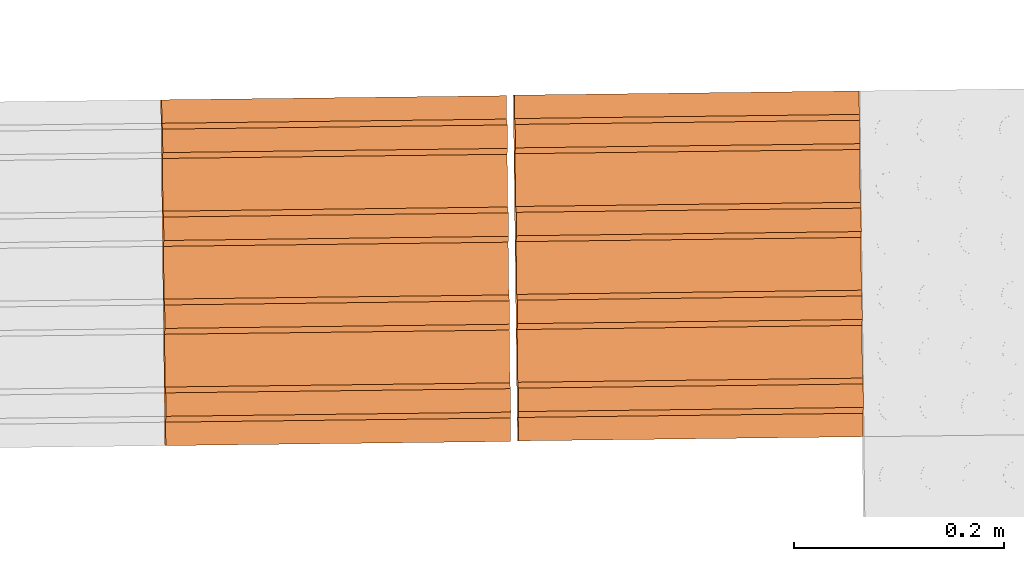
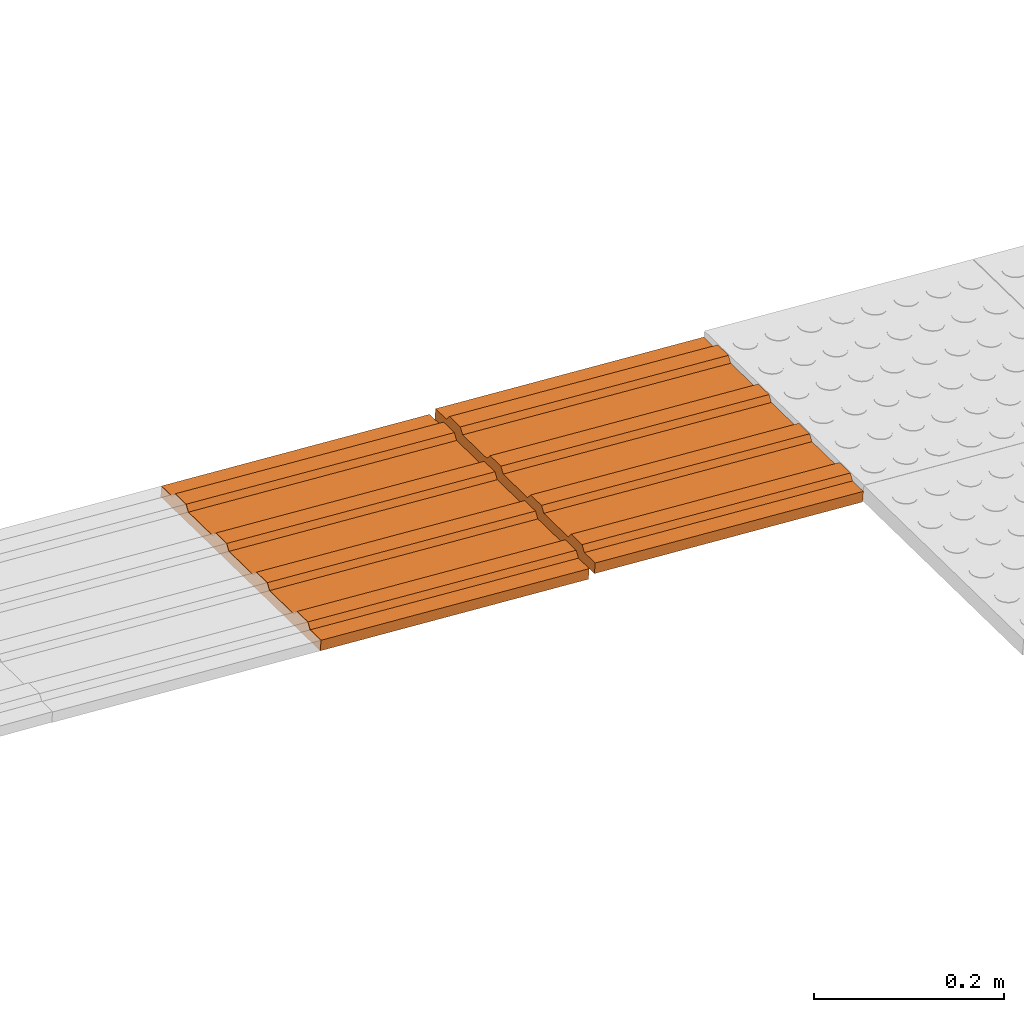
# One storey, part 184 of 237: 2 proxies.
"""IFC2X3 building model written with IfcOpenShell, lengths in millimetres."""

from ifc_helpers import new_model, entity, si_unit, converted_unit, derived_unit, money_unit, direction, frame, origin_with_axes, place, context, subcontext, project, spatial, open_shell, surface_model, source, transform, mapped, type_object, element, save


model = new_model("IFC2X3")

# Units and contexts
model_context = context("Model", 3, precision=0.01, world=origin_with_axes(), true_north=direction((0.0, 1.0)))
body_context = subcontext(model_context, "Body", "Model", "MODEL_VIEW")
ifc_project = project(units=[si_unit("LENGTHUNIT", "METRE", prefix="MILLI"), si_unit("AREAUNIT", "SQUARE_METRE"), si_unit("VOLUMEUNIT", "CUBIC_METRE"), converted_unit("PLANEANGLEUNIT", "DEGREE", entity("IfcPlaneAngleMeasure", 0.0174532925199), si_unit("PLANEANGLEUNIT", "RADIAN"), dimensions=[0, 0, 0, 0, 0, 0, 0]), money_unit("USD"), converted_unit("TIMEUNIT", "Year", entity("IfcTimeMeasure", 31556926.0), si_unit("TIMEUNIT", "SECOND"), dimensions=[0, 0, 1, 0, 0, 0, 0]), si_unit("MASSUNIT", "GRAM", prefix="KILO"), si_unit("THERMODYNAMICTEMPERATUREUNIT", "DEGREE_CELSIUS"), si_unit("LUMINOUSINTENSITYUNIT", "LUMEN"), si_unit("ENERGYUNIT", "JOULE", prefix="MEGA"), derived_unit("THERMALCONDUCTANCEUNIT", [(si_unit("POWERUNIT", "WATT"), 1), (si_unit("LENGTHUNIT", "METRE"), -1), (si_unit("THERMODYNAMICTEMPERATUREUNIT", "KELVIN"), -1)]), derived_unit("SPECIFICHEATCAPACITYUNIT", [(si_unit("ENERGYUNIT", "JOULE"), 1), (si_unit("MASSUNIT", "GRAM", prefix="KILO"), -1), (si_unit("THERMODYNAMICTEMPERATUREUNIT", "KELVIN"), -1)]), derived_unit("MASSDENSITYUNIT", [(si_unit("MASSUNIT", "GRAM", prefix="KILO"), 1), (si_unit("VOLUMEUNIT", "CUBIC_METRE"), -1)])], contexts=[model_context])

# Site, building, storey
site_placement = place(None, origin_with_axes())
site = spatial("IfcSite", under=ifc_project, at=site_placement, Name="Local", CompositionType="ELEMENT")
building_placement = place(site_placement, origin_with_axes())
building = spatial("IfcBuilding", under=site, at=building_placement, Name="Construção", CompositionType="ELEMENT")
storey_placement = place(building_placement, origin_with_axes())
storey = spatial("IfcBuildingStorey", under=building, at=storey_placement, Name="Pavimento Térreo", CompositionType="ELEMENT", Elevation=0.0)

# Proxies
building_element_proxy_type = type_object("IfcBuildingElementProxyType", Name="Piso Direcional 27", PredefinedType="NOTDEFINED")
shared_shape = source(origin_with_axes(), body_context, "Body", "SurfaceModel", [
    surface_model("IfcShellBasedSurfaceModel", [(-0.309064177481, -47.258225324, 4.01664745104), (328.718344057, -47.258225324, 29.3339267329), (328.20688387, -41.665004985, 35.9809450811), (-0.820524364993, -41.665004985, 10.6636657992)], [open_shell([[[0, 1, 2, 3]]])]),
    surface_model("IfcShellBasedSurfaceModel", [(329.741264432, -153.529411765, 16.0398900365), (329.741264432, 176.470588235, 16.0398900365), (328.718344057, 176.470588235, 29.3339267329), (328.718344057, 154.097706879, 29.3339267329), (328.20688387, 148.50448654, 35.9809450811), (328.20688387, 126.131605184, 35.9809450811), (328.718344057, 120.538384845, 29.3339267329), (328.718344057, 70.1994017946, 29.3339267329), (328.20688387, 64.6061814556, 35.9809450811), (328.20688387, 42.2333000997, 35.9809450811), (328.718344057, 36.6400797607, 29.3339267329), (328.718344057, -13.6989032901, 29.3339267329), (328.20688387, -19.2921236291, 35.9809450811), (328.20688387, -41.665004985, 35.9809450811), (328.718344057, -47.258225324, 29.3339267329), (328.718344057, -97.5972083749, 29.3339267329), (328.20688387, -103.190428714, 35.9809450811), (328.20688387, -125.56331007, 35.9809450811), (328.718344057, -131.156530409, 29.3339267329), (328.718344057, -153.529411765, 29.3339267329)], [open_shell([[[0, 1, 2, 3, 4, 5, 6, 7, 8, 9, 10, 11, 12, 13, 14, 15, 16, 17, 18, 19]]])]),
    surface_model("IfcShellBasedSurfaceModel", [(-0.820524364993, -19.2921236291, 10.6636657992), (328.20688387, -19.2921236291, 35.9809450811), (328.718344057, -13.6989032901, 29.3339267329), (-0.309064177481, -13.6989032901, 4.01664745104)], [open_shell([[[0, 1, 2, 3]]])]),
    surface_model("IfcShellBasedSurfaceModel", [(-0.820524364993, -103.190428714, 10.6636657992), (328.20688387, -103.190428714, 35.9809450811), (328.718344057, -97.5972083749, 29.3339267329), (-0.309064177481, -97.5972083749, 4.01664745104)], [open_shell([[[0, 1, 2, 3]]])]),
    surface_model("IfcShellBasedSurfaceModel", [(-0.820524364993, 64.6061814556, 10.6636657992), (328.20688387, 64.6061814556, 35.9809450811), (328.718344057, 70.1994017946, 29.3339267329), (-0.309064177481, 70.1994017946, 4.01664745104)], [open_shell([[[0, 1, 2, 3]]])]),
    surface_model("IfcShellBasedSurfaceModel", [(-0.309064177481, 36.6400797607, 4.01664745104), (328.718344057, 36.6400797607, 29.3339267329), (328.20688387, 42.2333000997, 35.9809450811), (-0.820524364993, 42.2333000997, 10.6636657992)], [open_shell([[[0, 1, 2, 3]]])]),
    surface_model("IfcShellBasedSurfaceModel", [(-0.309064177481, -131.156530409, 4.01664745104), (328.718344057, -131.156530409, 29.3339267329), (328.20688387, -125.56331007, 35.9809450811), (-0.820524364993, -125.56331007, 10.6636657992)], [open_shell([[[0, 1, 2, 3]]])]),
    surface_model("IfcShellBasedSurfaceModel", [(-0.309064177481, 176.470588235, 4.01664745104), (-0.309064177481, 154.097706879, 4.01664745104), (328.718344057, 154.097706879, 29.3339267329), (328.718344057, 176.470588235, 29.3339267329)], [open_shell([[[0, 1, 2, 3]]])]),
    surface_model("IfcShellBasedSurfaceModel", [(-0.309064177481, 120.538384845, 4.01664745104), (328.718344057, 120.538384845, 29.3339267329), (328.20688387, 126.131605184, 35.9809450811), (-0.820524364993, 126.131605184, 10.6636657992)], [open_shell([[[0, 1, 2, 3]]])]),
    surface_model("IfcShellBasedSurfaceModel", [(-0.820524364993, 148.50448654, 10.6636657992), (328.20688387, 148.50448654, 35.9809450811), (328.718344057, 154.097706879, 29.3339267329), (-0.309064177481, 154.097706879, 4.01664745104)], [open_shell([[[0, 1, 2, 3]]])]),
    surface_model("IfcShellBasedSurfaceModel", [(-0.309064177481, 36.6400797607, 4.01664745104), (-0.309064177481, -13.6989032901, 4.01664745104), (328.718344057, -13.6989032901, 29.3339267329), (328.718344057, 36.6400797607, 29.3339267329)], [open_shell([[[0, 1, 2, 3]]])]),
    surface_model("IfcShellBasedSurfaceModel", [(-0.309064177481, 120.538384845, 4.01664745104), (-0.309064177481, 70.1994017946, 4.01664745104), (328.718344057, 70.1994017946, 29.3339267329), (328.718344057, 120.538384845, 29.3339267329)], [open_shell([[[0, 1, 2, 3]]])]),
    surface_model("IfcShellBasedSurfaceModel", [(-0.820524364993, 148.50448654, 10.6636657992), (-0.820524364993, 126.131605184, 10.6636657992), (328.20688387, 126.131605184, 35.9809450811), (328.20688387, 148.50448654, 35.9809450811)], [open_shell([[[0, 1, 2, 3]]])]),
    surface_model("IfcShellBasedSurfaceModel", [(-0.309064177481, 120.538384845, 4.01664745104), (-0.820524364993, 126.131605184, 10.6636657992), (-0.820524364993, 148.50448654, 10.6636657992), (-0.309064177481, 154.097706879, 4.01664745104), (-0.309064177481, 176.470588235, 4.01664745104), (0.713856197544, 176.470588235, -9.27738924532), (0.713856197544, -153.529411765, -9.27738924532), (-0.309064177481, -153.529411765, 4.01664745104), (-0.309064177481, -131.156530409, 4.01664745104), (-0.820524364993, -125.56331007, 10.6636657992), (-0.820524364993, -103.190428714, 10.6636657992), (-0.309064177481, -97.5972083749, 4.01664745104), (-0.309064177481, -47.258225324, 4.01664745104), (-0.820524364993, -41.665004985, 10.6636657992), (-0.820524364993, -19.2921236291, 10.6636657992), (-0.309064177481, -13.6989032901, 4.01664745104), (-0.309064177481, 36.6400797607, 4.01664745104), (-0.820524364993, 42.2333000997, 10.6636657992), (-0.820524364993, 64.6061814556, 10.6636657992), (-0.309064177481, 70.1994017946, 4.01664745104)], [open_shell([[[0, 1, 2, 3, 4, 5, 6, 7, 8, 9, 10, 11, 12, 13, 14, 15, 16, 17, 18, 19]]])]),
    surface_model("IfcShellBasedSurfaceModel", [(328.20688387, -41.665004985, 35.9809450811), (328.20688387, -19.2921236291, 35.9809450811), (-0.820524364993, -19.2921236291, 10.6636657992), (-0.820524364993, -41.665004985, 10.6636657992)], [open_shell([[[0, 1, 2, 3]]])]),
    surface_model("IfcShellBasedSurfaceModel", [(-0.309064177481, -47.258225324, 4.01664745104), (-0.309064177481, -97.5972083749, 4.01664745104), (328.718344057, -97.5972083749, 29.3339267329), (328.718344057, -47.258225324, 29.3339267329)], [open_shell([[[0, 1, 2, 3]]])]),
    surface_model("IfcShellBasedSurfaceModel", [(328.20688387, 42.2333000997, 35.9809450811), (328.20688387, 64.6061814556, 35.9809450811), (-0.820524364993, 64.6061814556, 10.6636657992), (-0.820524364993, 42.2333000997, 10.6636657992)], [open_shell([[[0, 1, 2, 3]]])]),
    surface_model("IfcShellBasedSurfaceModel", [(328.20688387, -125.56331007, 35.9809450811), (328.20688387, -103.190428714, 35.9809450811), (-0.820524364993, -103.190428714, 10.6636657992), (-0.820524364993, -125.56331007, 10.6636657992)], [open_shell([[[0, 1, 2, 3]]])]),
    surface_model("IfcShellBasedSurfaceModel", [(329.741264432, 176.470588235, 16.0398900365), (0.713856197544, 176.470588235, -9.27738924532), (-0.309064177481, 176.470588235, 4.01664745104), (328.718344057, 176.470588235, 29.3339267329)], [open_shell([[[0, 1, 2, 3]]])]),
    surface_model("IfcShellBasedSurfaceModel", [(329.741264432, -153.529411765, 16.0398900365), (0.713856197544, -153.529411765, -9.27738924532), (0.713856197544, 176.470588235, -9.27738924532), (329.741264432, 176.470588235, 16.0398900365)], [open_shell([[[0, 1, 2, 3]]])]),
    surface_model("IfcShellBasedSurfaceModel", [(328.718344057, -153.529411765, 29.3339267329), (328.718344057, -131.156530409, 29.3339267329), (-0.309064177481, -131.156530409, 4.01664745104), (-0.309064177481, -153.529411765, 4.01664745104)], [open_shell([[[0, 1, 2, 3]]])]),
    surface_model("IfcShellBasedSurfaceModel", [(0.713856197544, -153.529411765, -9.27738924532), (329.741264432, -153.529411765, 16.0398900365), (328.718344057, -153.529411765, 29.3339267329), (-0.309064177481, -153.529411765, 4.01664745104)], [open_shell([[[0, 1, 2, 3]]])]),
])
for number, where, z_axis, x_axis, name in (
    (1, (66729.5984541, 36858.0843791, -2756.57265927), (0.0, 0.0, 1.0), (-0.999926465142, -0.012127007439, 0.0), "Objeto-0055"),
    (2, (67066.1375282, 36862.5940346, -2777.63922908), (0.0, 0.0, 1.0), (-0.999926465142, -0.012127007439, 0.0), "Objeto-0055"),
):
    element("IfcBuildingElementProxy", number, at=place(storey_placement, frame(where, z_axis=z_axis, x_axis=x_axis)), inside=storey, type_object=building_element_proxy_type, Name=name, context=body_context, shape_type="MappedRepresentation", body=[
        mapped(shared_shape, transform((0.0, 0.0, 0.0))),
    ])

save(model, "model.ifc")
